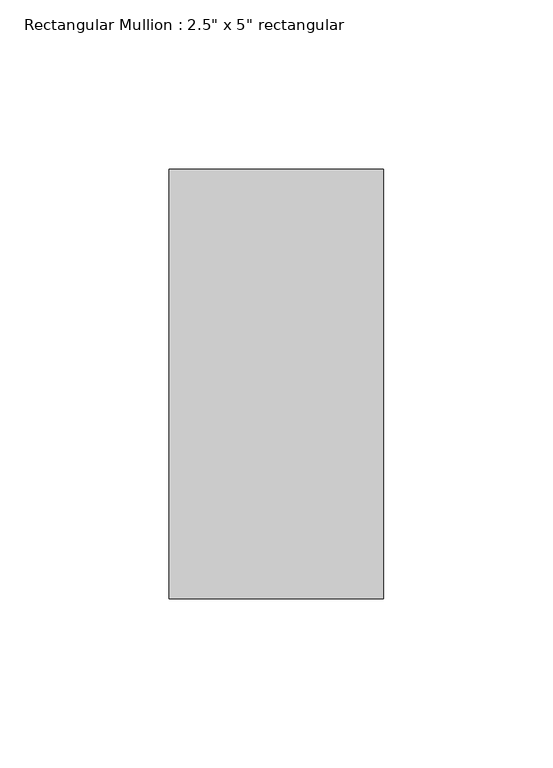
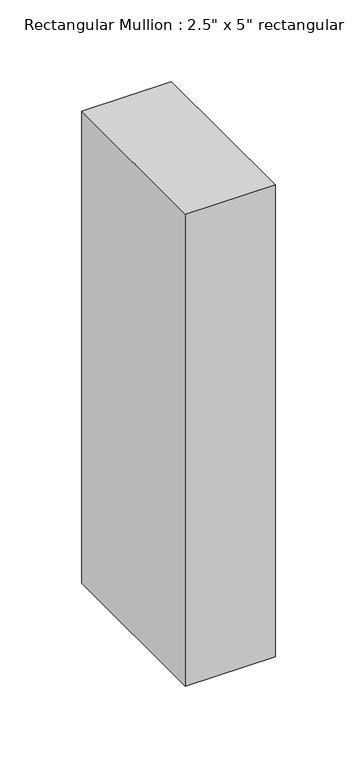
"""IFC4 building model written with IfcOpenShell, lengths in millimetres: member geometry."""

import ifcopenshell
import ifcopenshell.guid

model = None  # the IFC model being written
_history = None  # IfcOwnerHistory: only IFC2X3 demands one
_inside = {}  # id of a spatial element -> (the spatial element, [elements in it])
_under = {}  # id of a project, library or spatial element -> (it, [spatial elements below it])
_declared = {}  # id of a project -> (the project, [libraries it declares])
_typed = {}  # id of a type object -> (the type object, [elements of that type])
_made_of = {}  # id of a material, layer set ... -> (it, [elements and type objects made of it])


def new_model(schema):
    """Start an empty IFC model of exactly this schema.

    Asked for "IFC4X3", IfcOpenShell would pick the latest addendum, in which some entities
    have other attributes; the version numbers below select the first issue.
    IFC2X3 requires an IfcOwnerHistory on every rooted entity: one is made here for all.
    """
    global model, _history
    if schema == "IFC4X3":
        model = ifcopenshell.file(schema_version=(4, 3, 0, 0))
    else:
        model = ifcopenshell.file(schema=schema)
    _inside.clear()
    _under.clear()
    _declared.clear()
    _typed.clear()
    _made_of.clear()
    _history = None
    if model.schema == "IFC2X3":
        org = make("IfcOrganization", Name="unknown")
        user = make(
            "IfcPersonAndOrganization",
            ThePerson=make("IfcPerson", FamilyName="unknown"),
            TheOrganization=org,
        )
        app = make(
            "IfcApplication",
            ApplicationDeveloper=org,
            Version="unknown",
            ApplicationFullName="unknown",
            ApplicationIdentifier="unknown",
        )
        _history = make(
            "IfcOwnerHistory",
            OwningUser=user,
            OwningApplication=app,
            ChangeAction="ADDED",
            CreationDate=0,
        )
    return model


def make(cls, **values):
    """One entity of the class cls with the attributes given. An attribute that is None is left unset."""
    return model.create_entity(
        cls, **{name: value for name, value in values.items() if value is not None}
    )


def rooted(cls, **values):
    """An entity with a GlobalId (a new one), such as an element, a storey or a relation."""
    return make(cls, GlobalId=ifcopenshell.guid.new(), OwnerHistory=_history, **values)


def si_unit(unit_type, name, prefix=None):
    """IfcSIUnit, for example si_unit("LENGTHUNIT", "METRE", prefix="MILLI")."""
    return make("IfcSIUnit", UnitType=unit_type, Prefix=prefix, Name=name)


def assignment(units):
    """IfcUnitAssignment: the units of a project."""
    return None if units is None else make("IfcUnitAssignment", Units=units)


def point(xyz):
    """IfcCartesianPoint."""
    return None if xyz is None else make("IfcCartesianPoint", Coordinates=xyz)


def direction(xyz):
    """IfcDirection."""
    return None if xyz is None else make("IfcDirection", DirectionRatios=xyz)


def frame(location, z_axis=None, x_axis=None):
    """IfcAxis2Placement3D, a coordinate frame: its origin and axes. An axis left out is left unset."""
    return make(
        "IfcAxis2Placement3D",
        Location=point(location),
        Axis=direction(z_axis),
        RefDirection=direction(x_axis),
    )


def origin():
    """The frame at (0, 0, 0) with its axes left unset."""
    return frame((0.0, 0.0, 0.0))


def place(relative_to, where):
    """IfcLocalPlacement: puts the frame where relative to a parent placement (None: the world)."""
    return make(
        "IfcLocalPlacement", PlacementRelTo=relative_to, RelativePlacement=where
    )


def context(
    kind, dimensions, precision=None, world=None, true_north=None, identifier=None
):
    """IfcGeometricRepresentationContext, for example the 3D "Model" context."""
    return make(
        "IfcGeometricRepresentationContext",
        ContextIdentifier=identifier,
        ContextType=kind,
        CoordinateSpaceDimension=dimensions,
        Precision=precision,
        WorldCoordinateSystem=world,
        TrueNorth=true_north,
    )


def project(units=None, contexts=None):
    """IfcProject with its units and contexts."""
    return rooted(
        "IfcProject",
        Name="project",
        RepresentationContexts=contexts,
        UnitsInContext=assignment(units),
    )


def spatial(cls, under=None, at=None, **own):
    """A site, building, storey or space (cls), placed at a placement, below another one or the project."""
    s = rooted(cls, ObjectPlacement=at, **own)
    if under is not None:
        _under.setdefault(under.id(), (under, []))[1].append(s)
    return s


def polyline(points):
    """IfcPolyline through the points."""
    return make("IfcPolyline", Points=[point(p) for p in points])


def outline(outer, holes=None, kind="AREA"):
    """IfcArbitraryClosedProfileDef: a profile drawn as a closed curve; with holes, ...WithVoids."""
    if holes is None:
        return make("IfcArbitraryClosedProfileDef", ProfileType=kind, OuterCurve=outer)
    return make(
        "IfcArbitraryProfileDefWithVoids",
        ProfileType=kind,
        OuterCurve=outer,
        InnerCurves=holes,
    )


def extrude(swept, where, along, depth):
    """IfcExtrudedAreaSolid: the profile swept, set in the frame where, extruded along a direction by depth."""
    return make(
        "IfcExtrudedAreaSolid",
        SweptArea=swept,
        Position=where,
        ExtrudedDirection=direction(along),
        Depth=depth,
    )


def shape(context_of_items, identifier, shape_type, items):
    """IfcShapeRepresentation: the items that make up one representation, for example the "Body"."""
    return make(
        "IfcShapeRepresentation",
        ContextOfItems=context_of_items,
        RepresentationIdentifier=identifier,
        RepresentationType=shape_type,
        Items=items,
    )


def source(mapping_origin, context_of_items, identifier, shape_type, items):
    """IfcRepresentationMap: a shape defined once, which mapped items show again and again."""
    return make(
        "IfcRepresentationMap",
        MappingOrigin=mapping_origin,
        MappedRepresentation=shape(context_of_items, identifier, shape_type, items),
    )


def transform(
    local_origin,
    x_axis=None,
    y_axis=None,
    z_axis=None,
    scale=None,
    scale2=None,
    scale3=None,
    uniform=True,
):
    """IfcCartesianTransformationOperator3D, or its non-uniform kind. x_axis, y_axis, z_axis: its Axis1, 2, 3."""
    if uniform:
        return make(
            "IfcCartesianTransformationOperator3D",
            Axis1=direction(x_axis),
            Axis2=direction(y_axis),
            LocalOrigin=point(local_origin),
            Scale=scale,
            Axis3=direction(z_axis),
        )
    return make(
        "IfcCartesianTransformationOperator3DnonUniform",
        Axis1=direction(x_axis),
        Axis2=direction(y_axis),
        LocalOrigin=point(local_origin),
        Scale=scale,
        Axis3=direction(z_axis),
        Scale2=scale2,
        Scale3=scale3,
    )


def mapped(mapping_source, mapping_target):
    """IfcMappedItem: shows the shape of a source again, moved by a transform."""
    return make(
        "IfcMappedItem", MappingSource=mapping_source, MappingTarget=mapping_target
    )


def made_of(thing, what):
    """Note that an element or type object is made of a material, layer set ...; save() writes the relation."""
    if what is not None:
        _made_of.setdefault(what.id(), (what, []))[1].append(thing)
    return thing


def element(
    cls,
    number,
    at=None,
    inside=None,
    cuts=None,
    type_object=None,
    material=None,
    context=None,
    identifier="Body",
    shape_type=None,
    held_by="IfcProductDefinitionShape",
    body=None,
    shapes=None,
    **own,
):
    """One element of the class cls, such as IfcWall. Its Tag is "e" and its number.

    at: its placement. inside: the storey or other place that contains it. cuts: it is an
    opening in that element (IfcRelVoidsElement). A single representation is given by context,
    identifier, shape_type and body (its items); several are given by shapes. held_by: the class
    of the entity that holds the representations. save() writes the other relations.
    """
    e = rooted(cls, Tag="e%d" % number, ObjectPlacement=at, **own)
    if body is not None:
        shapes = [shape(context, identifier, shape_type, body)]
    if shapes is not None:
        e.Representation = make(held_by, Representations=shapes)
    if inside is not None:
        _inside.setdefault(inside.id(), (inside, []))[1].append(e)
    if cuts is not None:
        rooted(
            "IfcRelVoidsElement", RelatingBuildingElement=cuts, RelatedOpeningElement=e
        )
    if type_object is not None:
        _typed.setdefault(type_object.id(), (type_object, []))[1].append(e)
    return made_of(e, material)


def aggregate(whole, parts):
    """IfcRelAggregates: a whole, such as a stair, and the parts it consists of."""
    return rooted("IfcRelAggregates", RelatingObject=whole, RelatedObjects=parts)


def save(model, path):
    """Write the relations noted so far, then the file.

    IfcRelAggregates (storeys below a building ...), IfcRelContainedInSpatialStructure (elements
    in a storey), IfcRelDefinesByType, IfcRelAssociatesMaterial and IfcRelDeclares: one each for
    every whole, place, type object, material and project.
    """
    for whole, parts in _under.values():
        aggregate(whole, parts)
    for where, things in _inside.values():
        rooted(
            "IfcRelContainedInSpatialStructure",
            RelatedElements=things,
            RelatingStructure=where,
        )
    for kind, things in _typed.values():
        rooted("IfcRelDefinesByType", RelatedObjects=things, RelatingType=kind)
    for what, things in _made_of.values():
        rooted("IfcRelAssociatesMaterial", RelatedObjects=things, RelatingMaterial=what)
    for by, libraries in _declared.values():
        rooted("IfcRelDeclares", RelatingContext=by, RelatedDefinitions=libraries)
    model.write(path)


def member_6f538441(model_context):
    return source(origin(), model_context, "Body", "SweptSolid", [
        extrude(outline(polyline([(0.0, 63.5), (0.0, -63.5), (-63.5, -63.5), (-63.5, 63.5), (0.0, 63.5)])), frame((0.0, 0.0, -352.8785714), z_axis=(0.0, 0.0, 1.0), x_axis=(1.0, 0.0, 0.0)), (0.0, 0.0, 1.0), 352.8785714),
    ])


if __name__ == "__main__":
    model = new_model("IFC4")
    model_context = context("Model", 3, world=origin())
    ifc_project = project(units=[si_unit("LENGTHUNIT", "METRE", prefix="MILLI")], contexts=[model_context])
    site = spatial("IfcSite", under=ifc_project)
    building = spatial("IfcBuilding", under=site)
    placement = place(None, origin())
    member_shape = member_6f538441(model_context)
    element("IfcMember", 1, ObjectType="Rectangular Mullion : 2.5\" x 5\" rectangular", at=placement, inside=building, context=model_context, shape_type="MappedRepresentation", body=[
        mapped(member_shape, transform((0.0, 0.0, 0.0), x_axis=(1.0, 0.0, 0.0), y_axis=(0.0, 1.0, 0.0), z_axis=(0.0, 0.0, 1.0))),
    ])
    save(model, "model.ifc")
